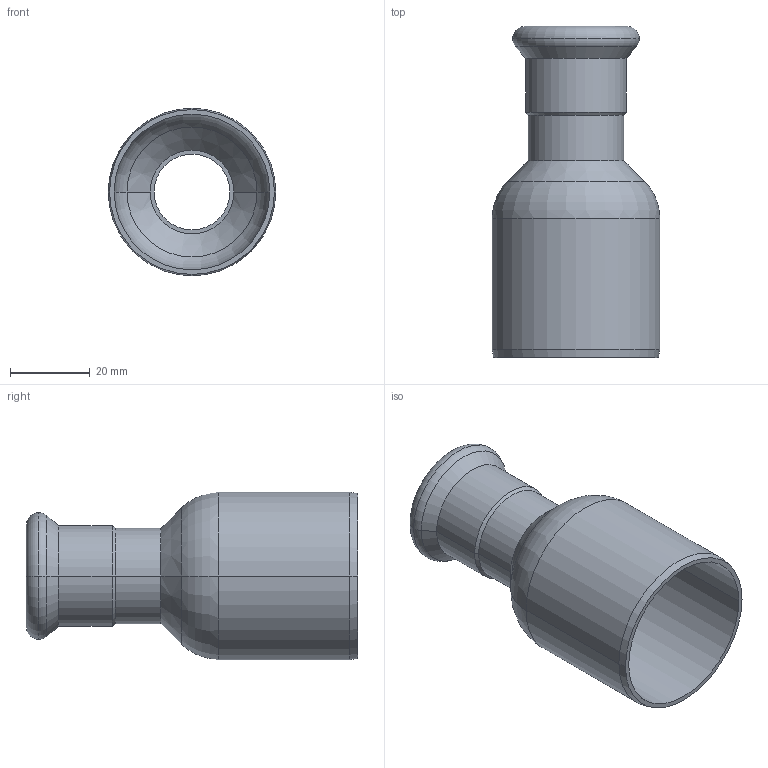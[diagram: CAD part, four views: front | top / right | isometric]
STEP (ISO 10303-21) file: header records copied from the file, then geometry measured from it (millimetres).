
FILE_DESCRIPTION(('CoCreate Modeling STEP Export'),'2;1');
FILE_NAME('C1407 22x42.stp','2014-11-07T16:30:18',(''),(''),'CoCreate Modeling STEP processor for AP214 (Solid Model)','CoCreate Modeling 17.00A 17-Jun-2010 (C) Parametric Technology GmbH','');
FILE_SCHEMA(('AUTOMOTIVE_DESIGN { 1 0 10303 214 1 1 1 1 }'));
Length unit declared in the file: millimetre
Products named in the file (2): C1407_22x42
Assembly tree (1 placements, depth 2):
  C1407_22x42
    C1407_22x42
Bounding box: 42 x 83 x 42 mm (x, y, z)
Volume: 15102.2 mm3; surface area: 18361.4 mm2
Topology: 1 solids, 1 shells, 39 faces, 80 edges, 46 vertices
Faces by surface type: cylinder 16, cone 10, torus 8, plane 5
Entity records: 871 total; most frequent: ORIENTED_EDGE 160, DIRECTION 132, CARTESIAN_POINT 125, EDGE_CURVE 80, AXIS2_PLACEMENT_3D 53, VERTEX_POINT 46, EDGE_LOOP 44, FACE_OUTER_BOUND 39
